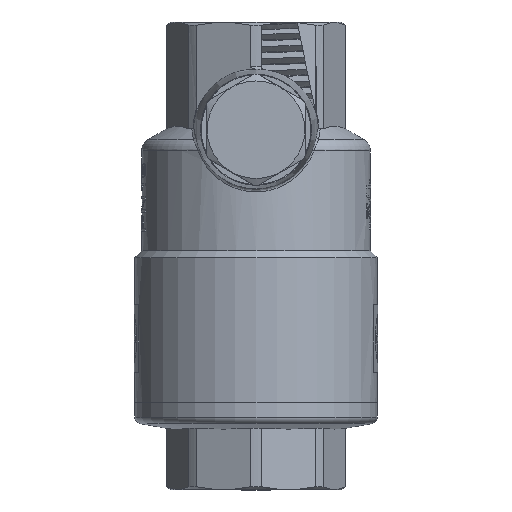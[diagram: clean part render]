
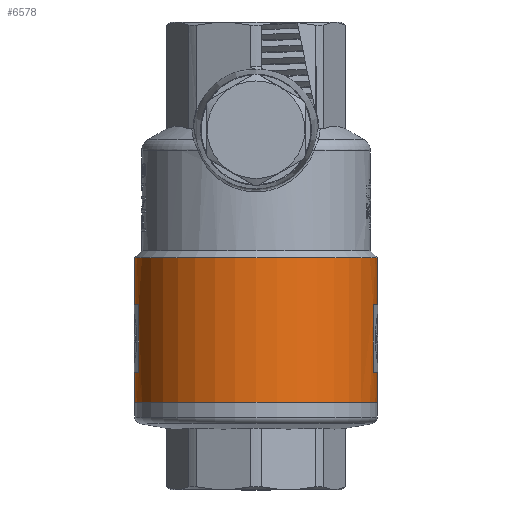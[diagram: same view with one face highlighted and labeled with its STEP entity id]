
A CAD part, front view. The second image highlights one B-rep face of the part: STEP entity #6578.
In plain terms, the highlighted cylindrical face has radius 18 mm (diameter 36 mm), a full revolution.
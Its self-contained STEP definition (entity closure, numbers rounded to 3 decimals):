
#235=B_SPLINE_CURVE_WITH_KNOTS('',3,(#16132,#16133,#16134,#16135,#16136,
#16137,#16138,#16139,#16140,#16141,#16142,#16143,#16144),.UNSPECIFIED.,
 .F.,.F.,(4,1,1,1,1,1,1,1,1,1,4),(-4.093,-3.898,-3.508,
-3.118,-2.858,-2.599,-2.339,
-2.079,-1.819,-1.559,-1.364),
 .UNSPECIFIED.);
#236=B_SPLINE_CURVE_WITH_KNOTS('',3,(#16151,#16152,#16153,#16154,#16155,
#16156,#16157),.UNSPECIFIED.,.F.,.F.,(4,1,1,1,4),(-5.457,-5.067,
-4.677,-4.288,-4.093),.UNSPECIFIED.);
#237=B_SPLINE_CURVE_WITH_KNOTS('',3,(#16158,#16159,#16160,#16161,#16162,
#16163,#16164),.UNSPECIFIED.,.F.,.F.,(4,1,1,1,4),(-1.364,-1.169,
-0.78,-0.39,0.),.UNSPECIFIED.);
#366=CYLINDRICAL_SURFACE('',#7095,18.);
#454=FACE_BOUND('',#1233,.T.);
#455=FACE_BOUND('',#1234,.T.);
#828=FACE_OUTER_BOUND('',#1232,.T.);
#1232=EDGE_LOOP('',(#5205,#5206,#5207,#5208,#5209,#5210,#5211,#5212,#5213,
#5214,#5215));
#1233=EDGE_LOOP('',(#5216,#5217,#5218,#5219));
#1234=EDGE_LOOP('',(#5220,#5221,#5222,#5223));
#1692=LINE('',#16101,#2098);
#1699=LINE('',#16123,#2105);
#1700=LINE('',#16130,#2106);
#1701=LINE('',#16146,#2107);
#1702=LINE('',#16169,#2108);
#1703=LINE('',#16172,#2109);
#2098=VECTOR('',#8286,10.);
#2105=VECTOR('',#8315,10.);
#2106=VECTOR('',#8322,18.);
#2107=VECTOR('',#8323,18.);
#2108=VECTOR('',#8330,10.);
#2109=VECTOR('',#8333,10.);
#2406=CIRCLE('',#7082,18.);
#2407=CIRCLE('',#7085,18.);
#2410=CIRCLE('',#7096,18.);
#2411=CIRCLE('',#7097,18.);
#2412=CIRCLE('',#7098,18.);
#2413=CIRCLE('',#7099,18.);
#2414=CIRCLE('',#7100,18.);
#2415=CIRCLE('',#7101,18.);
#2989=VERTEX_POINT('',#16093);
#2990=VERTEX_POINT('',#16095);
#2991=VERTEX_POINT('',#16099);
#2992=VERTEX_POINT('',#16103);
#2996=VERTEX_POINT('',#16125);
#2997=VERTEX_POINT('',#16126);
#2998=VERTEX_POINT('',#16129);
#2999=VERTEX_POINT('',#16131);
#3000=VERTEX_POINT('',#16145);
#3001=VERTEX_POINT('',#16147);
#3002=VERTEX_POINT('',#16150);
#3003=VERTEX_POINT('',#16165);
#3004=VERTEX_POINT('',#16166);
#3005=VERTEX_POINT('',#16168);
#3006=VERTEX_POINT('',#16170);
#3809=EDGE_CURVE('',#2990,#2989,#2406,.T.);
#3812=EDGE_CURVE('',#2989,#2991,#1692,.T.);
#3814=EDGE_CURVE('',#2991,#2992,#2407,.T.);
#3823=EDGE_CURVE('',#2992,#2990,#1699,.T.);
#3824=EDGE_CURVE('',#2996,#2997,#2410,.T.);
#3825=EDGE_CURVE('',#2997,#2996,#2411,.T.);
#3826=EDGE_CURVE('',#2997,#2998,#1700,.T.);
#3827=EDGE_CURVE('',#2999,#2998,#235,.T.);
#3828=EDGE_CURVE('',#2999,#3000,#1701,.T.);
#3829=EDGE_CURVE('',#3000,#3001,#2412,.T.);
#3830=EDGE_CURVE('',#3001,#3000,#2413,.T.);
#3831=EDGE_CURVE('',#3002,#2999,#236,.T.);
#3832=EDGE_CURVE('',#2998,#3002,#237,.T.);
#3833=EDGE_CURVE('',#3003,#3004,#2414,.T.);
#3834=EDGE_CURVE('',#3004,#3005,#1702,.T.);
#3835=EDGE_CURVE('',#3005,#3006,#2415,.T.);
#3836=EDGE_CURVE('',#3006,#3003,#1703,.T.);
#5205=ORIENTED_EDGE('',*,*,#3824,.F.);
#5206=ORIENTED_EDGE('',*,*,#3825,.F.);
#5207=ORIENTED_EDGE('',*,*,#3826,.T.);
#5208=ORIENTED_EDGE('',*,*,#3827,.F.);
#5209=ORIENTED_EDGE('',*,*,#3828,.T.);
#5210=ORIENTED_EDGE('',*,*,#3829,.T.);
#5211=ORIENTED_EDGE('',*,*,#3830,.T.);
#5212=ORIENTED_EDGE('',*,*,#3828,.F.);
#5213=ORIENTED_EDGE('',*,*,#3831,.F.);
#5214=ORIENTED_EDGE('',*,*,#3832,.F.);
#5215=ORIENTED_EDGE('',*,*,#3826,.F.);
#5216=ORIENTED_EDGE('',*,*,#3809,.T.);
#5217=ORIENTED_EDGE('',*,*,#3812,.T.);
#5218=ORIENTED_EDGE('',*,*,#3814,.T.);
#5219=ORIENTED_EDGE('',*,*,#3823,.T.);
#5220=ORIENTED_EDGE('',*,*,#3833,.T.);
#5221=ORIENTED_EDGE('',*,*,#3834,.T.);
#5222=ORIENTED_EDGE('',*,*,#3835,.T.);
#5223=ORIENTED_EDGE('',*,*,#3836,.T.);
#6578=ADVANCED_FACE('',(#828,#454,#455),#366,.T.);
#7082=AXIS2_PLACEMENT_3D('',#16096,#8280,#8281);
#7085=AXIS2_PLACEMENT_3D('',#16105,#8290,#8291);
#7095=AXIS2_PLACEMENT_3D('',#16124,#8316,#8317);
#7096=AXIS2_PLACEMENT_3D('',#16127,#8318,#8319);
#7097=AXIS2_PLACEMENT_3D('',#16128,#8320,#8321);
#7098=AXIS2_PLACEMENT_3D('',#16148,#8324,#8325);
#7099=AXIS2_PLACEMENT_3D('',#16149,#8326,#8327);
#7100=AXIS2_PLACEMENT_3D('',#16167,#8328,#8329);
#7101=AXIS2_PLACEMENT_3D('',#16171,#8331,#8332);
#8280=DIRECTION('center_axis',(0.,0.,1.));
#8281=DIRECTION('ref_axis',(0.,-1.,0.));
#8286=DIRECTION('',(0.,0.,-1.));
#8290=DIRECTION('center_axis',(0.,0.,-1.));
#8291=DIRECTION('ref_axis',(0.,-1.,0.));
#8315=DIRECTION('',(0.,0.,1.));
#8316=DIRECTION('center_axis',(0.,0.,1.));
#8317=DIRECTION('ref_axis',(0.,-1.,0.));
#8318=DIRECTION('center_axis',(0.,0.,1.));
#8319=DIRECTION('ref_axis',(1.,0.,0.));
#8320=DIRECTION('center_axis',(0.,0.,1.));
#8321=DIRECTION('ref_axis',(1.,0.,0.));
#8322=DIRECTION('',(0.,0.,-1.));
#8323=DIRECTION('',(0.,0.,-1.));
#8324=DIRECTION('center_axis',(0.,0.,1.));
#8325=DIRECTION('ref_axis',(1.,0.,0.));
#8326=DIRECTION('center_axis',(0.,0.,1.));
#8327=DIRECTION('ref_axis',(1.,0.,0.));
#8328=DIRECTION('center_axis',(0.,0.,
-1.));
#8329=DIRECTION('ref_axis',(0.,-1.,0.));
#8330=DIRECTION('',(0.,0.,1.));
#8331=DIRECTION('center_axis',(0.,0.,
1.));
#8332=DIRECTION('ref_axis',(0.,-1.,0.));
#8333=DIRECTION('',(0.,0.,-1.));
#16093=CARTESIAN_POINT('',(-17.399,-4.613,4.995));
#16095=CARTESIAN_POINT('',(-17.178,5.376,4.995));
#16096=CARTESIAN_POINT('Origin',(0.,0.,4.995));
#16099=CARTESIAN_POINT('',(-17.399,-4.613,-4.995));
#16101=CARTESIAN_POINT('',(-17.399,-4.613,1.25));
#16103=CARTESIAN_POINT('',(-17.178,5.376,-4.995));
#16105=CARTESIAN_POINT('Origin',(0.,0.,-4.995));
#16123=CARTESIAN_POINT('',(-17.178,5.376,1.25));
#16124=CARTESIAN_POINT('Origin',(0.,0.,1.25));
#16125=CARTESIAN_POINT('',(0.,-18.,12.));
#16126=CARTESIAN_POINT('',(0.,18.,12.));
#16127=CARTESIAN_POINT('Origin',(0.,0.,12.));
#16128=CARTESIAN_POINT('Origin',(0.,0.,12.));
#16129=CARTESIAN_POINT('',(0.,18.,9.271));
#16130=CARTESIAN_POINT('',(0.,18.,1.25));
#16131=CARTESIAN_POINT('',(0.,18.,-9.271));
#16132=CARTESIAN_POINT('Ctrl Pts',(0.,17.997,
-9.268));
#16133=CARTESIAN_POINT('Ctrl Pts',(-0.694,17.998,
-9.268));
#16134=CARTESIAN_POINT('Ctrl Pts',(-2.776,17.883,-9.035));
#16135=CARTESIAN_POINT('Ctrl Pts',(-5.903,17.117,-7.48));
#16136=CARTESIAN_POINT('Ctrl Pts',(-8.207,16.049,-4.606));
#16137=CARTESIAN_POINT('Ctrl Pts',(-9.209,15.467,-1.449));
#16138=CARTESIAN_POINT('Ctrl Pts',(-9.209,15.466,1.45));
#16139=CARTESIAN_POINT('Ctrl Pts',(-8.351,15.965,4.154));
#16140=CARTESIAN_POINT('Ctrl Pts',(-6.794,16.709,6.421));
#16141=CARTESIAN_POINT('Ctrl Pts',(-4.667,17.441,8.135));
#16142=CARTESIAN_POINT('Ctrl Pts',(-2.312,17.908,9.087));
#16143=CARTESIAN_POINT('Ctrl Pts',(-0.693,17.997,9.268));
#16144=CARTESIAN_POINT('Ctrl Pts',(0.001,17.997,
9.268));
#16145=CARTESIAN_POINT('',(0.,18.,-9.5));
#16146=CARTESIAN_POINT('',(0.,18.,1.25));
#16147=CARTESIAN_POINT('',(0.,-18.,-9.5));
#16148=CARTESIAN_POINT('Origin',(0.,0.,-9.5));
#16149=CARTESIAN_POINT('Origin',(0.,0.,-9.5));
#16150=CARTESIAN_POINT('',(9.174,15.487,0.));
#16151=CARTESIAN_POINT('Ctrl Pts',(9.174,15.487,0.));
#16152=CARTESIAN_POINT('Ctrl Pts',(9.174,15.487,-1.425));
#16153=CARTESIAN_POINT('Ctrl Pts',(8.497,15.911,-4.25));
#16154=CARTESIAN_POINT('Ctrl Pts',(5.904,17.12,-7.478));
#16155=CARTESIAN_POINT('Ctrl Pts',(2.776,17.882,-9.035));
#16156=CARTESIAN_POINT('Ctrl Pts',(0.694,17.997,-9.268));
#16157=CARTESIAN_POINT('Ctrl Pts',(0.,17.997,
-9.268));
#16158=CARTESIAN_POINT('Ctrl Pts',(0.001,17.997,
9.268));
#16159=CARTESIAN_POINT('Ctrl Pts',(0.694,17.997,9.268));
#16160=CARTESIAN_POINT('Ctrl Pts',(2.775,17.882,9.034));
#16161=CARTESIAN_POINT('Ctrl Pts',(5.905,17.12,7.478));
#16162=CARTESIAN_POINT('Ctrl Pts',(8.496,15.911,4.25));
#16163=CARTESIAN_POINT('Ctrl Pts',(9.174,15.487,1.425));
#16164=CARTESIAN_POINT('Ctrl Pts',(9.174,15.487,0.));
#16165=CARTESIAN_POINT('',(17.203,5.297,-4.995));
#16166=CARTESIAN_POINT('',(17.412,-4.563,-4.995));
#16167=CARTESIAN_POINT('Origin',(0.,0.,-4.995));
#16168=CARTESIAN_POINT('',(17.412,-4.563,4.995));
#16169=CARTESIAN_POINT('',(17.412,-4.563,1.25));
#16170=CARTESIAN_POINT('',(17.203,5.297,4.995));
#16171=CARTESIAN_POINT('Origin',(0.,0.,4.995));
#16172=CARTESIAN_POINT('',(17.203,5.297,1.25));
